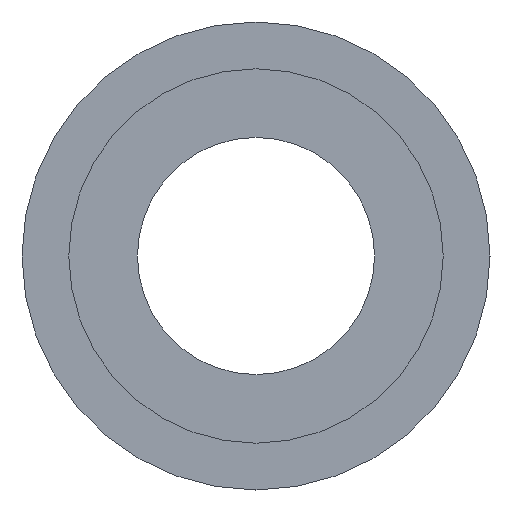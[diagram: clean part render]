
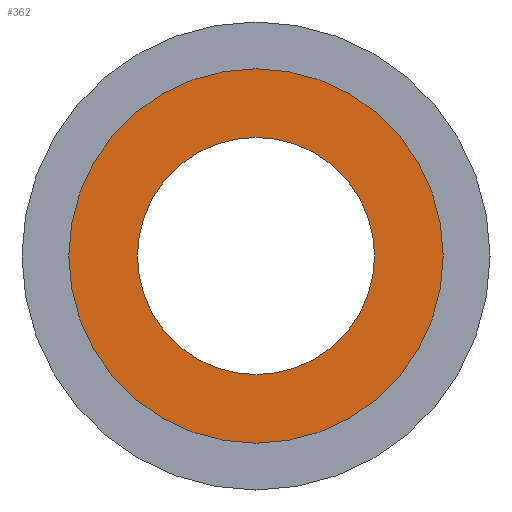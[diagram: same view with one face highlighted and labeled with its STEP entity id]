
A CAD part, left-side view. The second image highlights one B-rep face of the part: STEP entity #362.
In plain terms, the highlighted planar face has unit normal (-1, 0, 0).
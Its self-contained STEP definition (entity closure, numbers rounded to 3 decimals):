
#3 = ORIENTED_EDGE ( 'NONE', *, *, #445, .F. ) ;
#5 = CARTESIAN_POINT ( 'NONE',  ( 6., 0., 19. ) ) ;
#39 = AXIS2_PLACEMENT_3D ( 'NONE', #161, #472, #108 ) ;
#53 = EDGE_CURVE ( 'NONE', #601, #95, #104, .T. ) ;
#71 = DIRECTION ( 'NONE',  ( 0., 0., -1. ) ) ;
#79 = ORIENTED_EDGE ( 'NONE', *, *, #119, .T. ) ;
#95 = VERTEX_POINT ( 'NONE', #5 ) ;
#104 = CIRCLE ( 'NONE', #448, 19. ) ;
#108 = DIRECTION ( 'NONE',  ( 0., 0., 1. ) ) ;
#119 = EDGE_CURVE ( 'NONE', #146, #350, #351, .T. ) ;
#146 = VERTEX_POINT ( 'NONE', #692 ) ;
#152 = CIRCLE ( 'NONE', #361, 30. ) ;
#153 = DIRECTION ( 'NONE',  ( -1., 0., 0. ) ) ;
#160 = AXIS2_PLACEMENT_3D ( 'NONE', #595, #437, #71 ) ;
#161 = CARTESIAN_POINT ( 'NONE',  ( 6., 0., 0. ) ) ;
#198 = CIRCLE ( 'NONE', #251, 19. ) ;
#239 = EDGE_LOOP ( 'NONE', ( #79, #318 ) ) ;
#249 = FACE_BOUND ( 'NONE', #463, .T. ) ;
#251 = AXIS2_PLACEMENT_3D ( 'NONE', #638, #259, #575 ) ;
#259 = DIRECTION ( 'NONE',  ( -1., 0., 0. ) ) ;
#266 = DIRECTION ( 'NONE',  ( 0., 0., 1. ) ) ;
#317 = CARTESIAN_POINT ( 'NONE',  ( 6., 0., 0. ) ) ;
#318 = ORIENTED_EDGE ( 'NONE', *, *, #518, .T. ) ;
#336 = CARTESIAN_POINT ( 'NONE',  ( 6., 0., -30. ) ) ;
#350 = VERTEX_POINT ( 'NONE', #336 ) ;
#351 = CIRCLE ( 'NONE', #39, 30. ) ;
#355 = CARTESIAN_POINT ( 'NONE',  ( 6., 0., -19. ) ) ;
#361 = AXIS2_PLACEMENT_3D ( 'NONE', #519, #153, #466 ) ;
#362 = ADVANCED_FACE ( 'NONE', ( #249, #498 ), #493, .F. ) ;
#437 = DIRECTION ( 'NONE',  ( 1., 0., 0. ) ) ;
#445 = EDGE_CURVE ( 'NONE', #95, #601, #198, .T. ) ;
#448 = AXIS2_PLACEMENT_3D ( 'NONE', #317, #642, #266 ) ;
#463 = EDGE_LOOP ( 'NONE', ( #3, #658 ) ) ;
#466 = DIRECTION ( 'NONE',  ( 0., 0., 1. ) ) ;
#472 = DIRECTION ( 'NONE',  ( -1., 0., 0. ) ) ;
#493 = PLANE ( 'NONE',  #160 ) ;
#498 = FACE_OUTER_BOUND ( 'NONE', #239, .T. ) ;
#518 = EDGE_CURVE ( 'NONE', #350, #146, #152, .T. ) ;
#519 = CARTESIAN_POINT ( 'NONE',  ( 6., 0., 0. ) ) ;
#575 = DIRECTION ( 'NONE',  ( 0., 0., 1. ) ) ;
#595 = CARTESIAN_POINT ( 'NONE',  ( 6., 30., 0. ) ) ;
#601 = VERTEX_POINT ( 'NONE', #355 ) ;
#638 = CARTESIAN_POINT ( 'NONE',  ( 6., 0., 0. ) ) ;
#642 = DIRECTION ( 'NONE',  ( -1., 0., 0. ) ) ;
#658 = ORIENTED_EDGE ( 'NONE', *, *, #53, .F. ) ;
#692 = CARTESIAN_POINT ( 'NONE',  ( 6., 0., 30. ) ) ;
